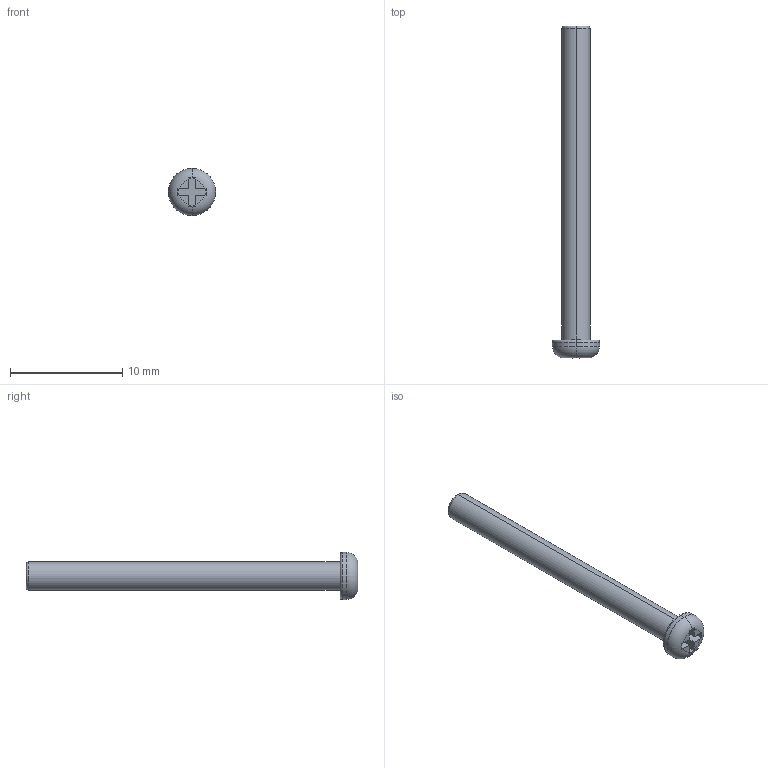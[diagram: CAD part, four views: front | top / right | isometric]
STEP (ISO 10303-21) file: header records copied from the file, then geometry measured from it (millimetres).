
FILE_DESCRIPTION (( 'STEP AP203' ), '1' );
FILE_NAME ('蹟佪-M2.5 x 28.STEP', '2025-06-04T09:06:59', ( '' ), ( '' ), 'SwSTEP 2.0', 'SolidWorks 2020', '' );
FILE_SCHEMA (( 'CONFIG_CONTROL_DESIGN' ));
Length unit declared in the file: millimetre
Products named in the file (1): 蹟佪-M2.5 x 28
Bounding box: 4.2 x 29.6 x 4.2 mm (x, y, z)
Volume: 152.9 mm3; surface area: 275.7 mm2
Topology: 1 solids, 1 shells, 29 faces, 72 edges, 46 vertices
Faces by surface type: plane 19, torus 6, cylinder 4
Entity records: 951 total; most frequent: CARTESIAN_POINT 190, ORIENTED_EDGE 144, DIRECTION 140, EDGE_CURVE 72, AXIS2_PLACEMENT_3D 52, VERTEX_POINT 46, LINE 36, VECTOR 36
